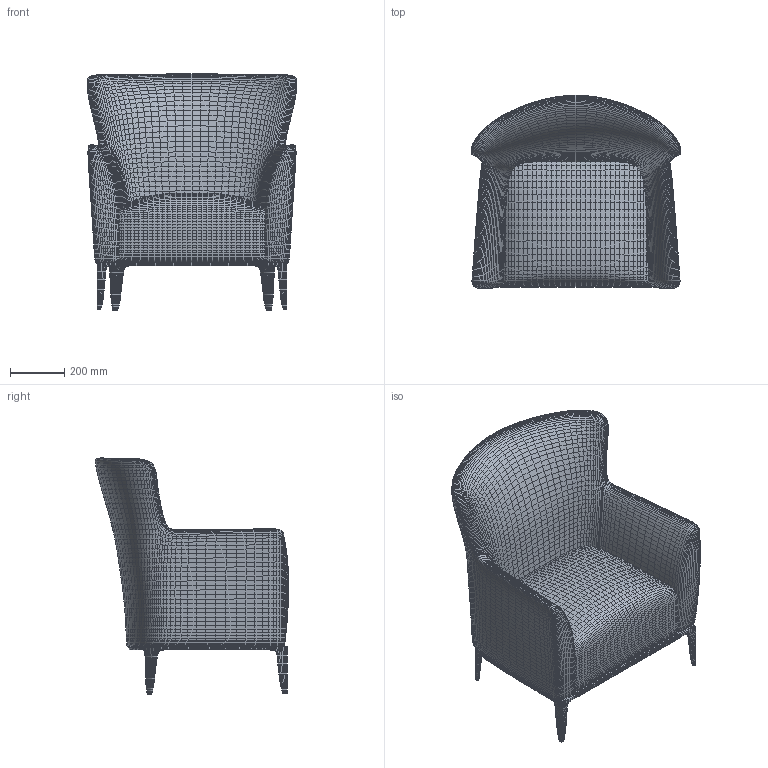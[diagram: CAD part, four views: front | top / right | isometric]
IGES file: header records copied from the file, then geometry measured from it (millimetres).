
Global section: file name: C:\Users\alberto\Dropbox\POLIFORM 3D model archive share\3dmodels repository\Poliform GENTLEMAN RELAX armchair\Poliform GENTLEMAN RELAX armchair.igs; native system: Rhinoceros ( May 22 2017 ); preprocessor: Trout Lake IGES 012 May 22 2017; date: 190520.115847; units: millimetre
Bounding box: 775.15 x 714.2 x 872.34 mm (x, y, z)
Surface area: 3293257.4 mm2 (no closed solid volume)
Topology: 0 solids, 0 shells, 26308 faces, 105212 edges, 105212 vertices
Faces by surface type: bspline 26308
